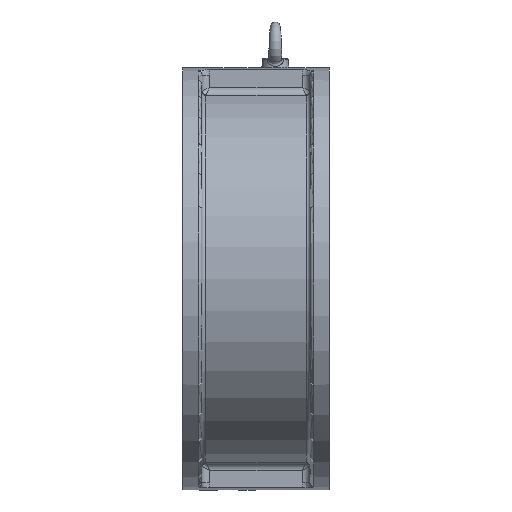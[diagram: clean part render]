
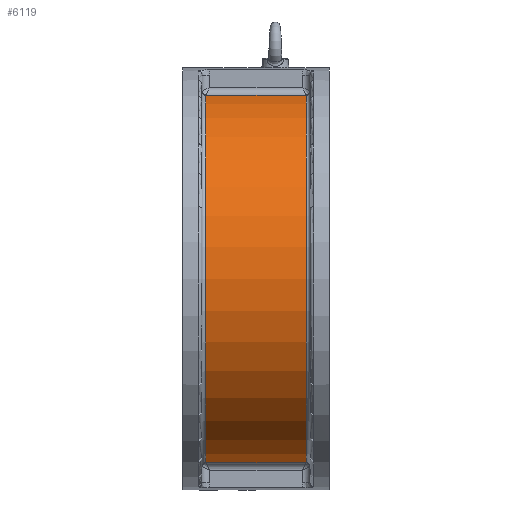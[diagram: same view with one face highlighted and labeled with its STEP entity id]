
A CAD part, left-side view. The second image highlights one B-rep face of the part: STEP entity #6119.
In plain terms, the highlighted cylindrical face has radius 145.5 mm (diameter 291 mm), a partial arc.
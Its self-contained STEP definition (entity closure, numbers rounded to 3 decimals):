
#174 = CARTESIAN_POINT ( 'NONE',  ( 3111.809, 1533.391, 142.809 ) ) ;
#192 = CARTESIAN_POINT ( 'NONE',  ( 3111.809, 1429.213, 142.809 ) ) ;
#277 = LINE ( 'NONE', #640, #8344 ) ;
#640 = CARTESIAN_POINT ( 'NONE',  ( 3111.809, 1533.391, -142.809 ) ) ;
#824 = ORIENTED_EDGE ( 'NONE', *, *, #9362, .T. ) ;
#1058 = CARTESIAN_POINT ( 'NONE',  ( 3111.436, 1429.157, -142.736 ) ) ;
#1218 = B_SPLINE_CURVE_WITH_KNOTS ( 'NONE', 3,
 ( #5866, #5013, #1058, #9013 ),
 .UNSPECIFIED., .F., .F.,
 ( 4, 4 ),
 ( 0., 0.001 ),
 .UNSPECIFIED. ) ;
#1305 = AXIS2_PLACEMENT_3D ( 'NONE', #7940, #7166, #2355 ) ;
#1540 = VERTEX_POINT ( 'NONE', #5170 ) ;
#2002 = CARTESIAN_POINT ( 'NONE',  ( 3111.247, 1507.157, -142.699 ) ) ;
#2131 = ORIENTED_EDGE ( 'NONE', *, *, #5859, .T. ) ;
#2322 = CARTESIAN_POINT ( 'NONE',  ( 3111.247, 1429.157, 142.699 ) ) ;
#2355 = DIRECTION ( 'NONE',  ( -1., 0., 0. ) ) ;
#2445 = VERTEX_POINT ( 'NONE', #2968 ) ;
#2459 = DIRECTION ( 'NONE',  ( -1., 0., 0. ) ) ;
#2552 = CARTESIAN_POINT ( 'NONE',  ( 3111.809, 1507.102, -142.809 ) ) ;
#2737 = CARTESIAN_POINT ( 'NONE',  ( 3111.436, 1507.157, 142.736 ) ) ;
#2904 = VERTEX_POINT ( 'NONE', #2002 ) ;
#2968 = CARTESIAN_POINT ( 'NONE',  ( 3111.809, 1507.102, 142.809 ) ) ;
#3271 = CARTESIAN_POINT ( 'NONE',  ( 3111.624, 1507.139, -142.773 ) ) ;
#3402 = CARTESIAN_POINT ( 'NONE',  ( 3111.436, 1507.157, -142.736 ) ) ;
#3418 = EDGE_CURVE ( 'NONE', #2445, #1540, #10149, .T. ) ;
#3444 = CARTESIAN_POINT ( 'NONE',  ( 3111.809, 1507.102, -142.809 ) ) ;
#3544 = EDGE_CURVE ( 'NONE', #7251, #5193, #277, .T. ) ;
#3901 = VERTEX_POINT ( 'NONE', #8760 ) ;
#4058 = VERTEX_POINT ( 'NONE', #192 ) ;
#4314 = CARTESIAN_POINT ( 'NONE',  ( 3111.624, 1507.139, 142.773 ) ) ;
#4545 = CARTESIAN_POINT ( 'NONE',  ( 3111.247, 1429.157, 142.699 ) ) ;
#4623 = AXIS2_PLACEMENT_3D ( 'NONE', #5683, #7314, #2459 ) ;
#4774 = CARTESIAN_POINT ( 'NONE',  ( 3111.809, 1429.213, -142.809 ) ) ;
#4878 = CIRCLE ( 'NONE', #9863, 145.5 ) ;
#4984 = ORIENTED_EDGE ( 'NONE', *, *, #9527, .F. ) ;
#5013 = CARTESIAN_POINT ( 'NONE',  ( 3111.624, 1429.176, -142.773 ) ) ;
#5046 = CARTESIAN_POINT ( 'NONE',  ( 3111.809, 1507.102, 142.809 ) ) ;
#5170 = CARTESIAN_POINT ( 'NONE',  ( 3111.247, 1507.157, 142.699 ) ) ;
#5193 = VERTEX_POINT ( 'NONE', #4774 ) ;
#5476 = CARTESIAN_POINT ( 'NONE',  ( 3111.624, 1429.176, 142.773 ) ) ;
#5683 = CARTESIAN_POINT ( 'NONE',  ( 3139.661, 1533.391, 0. ) ) ;
#5859 = EDGE_CURVE ( 'NONE', #3901, #7447, #4878, .T. ) ;
#5866 = CARTESIAN_POINT ( 'NONE',  ( 3111.809, 1429.213, -142.809 ) ) ;
#5985 = EDGE_CURVE ( 'NONE', #7447, #4058, #10048, .T. ) ;
#6119 = ADVANCED_FACE ( 'NONE', ( #8289 ), #10124, .T. ) ;
#6211 = DIRECTION ( 'NONE',  ( 0., 1., 0. ) ) ;
#6415 = CARTESIAN_POINT ( 'NONE',  ( 3111.247, 1507.157, -142.699 ) ) ;
#6698 = EDGE_CURVE ( 'NONE', #4058, #2445, #9268, .T. ) ;
#6972 = EDGE_LOOP ( 'NONE', ( #9931, #824, #2131, #8611, #7586, #9251, #4984, #9406 ) ) ;
#7061 = DIRECTION ( 'NONE',  ( -1., 0., 0. ) ) ;
#7166 = DIRECTION ( 'NONE',  ( 0., 1., 0. ) ) ;
#7251 = VERTEX_POINT ( 'NONE', #3444 ) ;
#7314 = DIRECTION ( 'NONE',  ( 0., 1., 0. ) ) ;
#7447 = VERTEX_POINT ( 'NONE', #4545 ) ;
#7586 = ORIENTED_EDGE ( 'NONE', *, *, #6698, .T. ) ;
#7940 = CARTESIAN_POINT ( 'NONE',  ( 3139.661, 1507.157, 0. ) ) ;
#7992 = DIRECTION ( 'NONE',  ( 0., -1., 0. ) ) ;
#8289 = FACE_OUTER_BOUND ( 'NONE', #6972, .T. ) ;
#8344 = VECTOR ( 'NONE', #7992, 1000. ) ;
#8371 = CARTESIAN_POINT ( 'NONE',  ( 3111.247, 1507.157, 142.699 ) ) ;
#8590 = CARTESIAN_POINT ( 'NONE',  ( 3111.436, 1429.157, 142.736 ) ) ;
#8611 = ORIENTED_EDGE ( 'NONE', *, *, #5985, .T. ) ;
#8742 = CARTESIAN_POINT ( 'NONE',  ( 3139.661, 1429.157, 0. ) ) ;
#8760 = CARTESIAN_POINT ( 'NONE',  ( 3111.247, 1429.157, -142.699 ) ) ;
#8807 = EDGE_CURVE ( 'NONE', #2904, #7251, #9243, .T. ) ;
#9013 = CARTESIAN_POINT ( 'NONE',  ( 3111.247, 1429.157, -142.699 ) ) ;
#9141 = CIRCLE ( 'NONE', #1305, 145.5 ) ;
#9151 = DIRECTION ( 'NONE',  ( 0., 1., 0. ) ) ;
#9243 = B_SPLINE_CURVE_WITH_KNOTS ( 'NONE', 3,
 ( #6415, #3402, #3271, #2552 ),
 .UNSPECIFIED., .F., .F.,
 ( 4, 4 ),
 ( 0., 0.001 ),
 .UNSPECIFIED. ) ;
#9251 = ORIENTED_EDGE ( 'NONE', *, *, #3418, .T. ) ;
#9268 = LINE ( 'NONE', #174, #9514 ) ;
#9362 = EDGE_CURVE ( 'NONE', #5193, #3901, #1218, .T. ) ;
#9406 = ORIENTED_EDGE ( 'NONE', *, *, #8807, .T. ) ;
#9514 = VECTOR ( 'NONE', #9151, 1000. ) ;
#9527 = EDGE_CURVE ( 'NONE', #2904, #1540, #9141, .T. ) ;
#9863 = AXIS2_PLACEMENT_3D ( 'NONE', #8742, #6211, #7061 ) ;
#9931 = ORIENTED_EDGE ( 'NONE', *, *, #3544, .T. ) ;
#10048 = B_SPLINE_CURVE_WITH_KNOTS ( 'NONE', 3,
 ( #2322, #8590, #5476, #10313 ),
 .UNSPECIFIED., .F., .F.,
 ( 4, 4 ),
 ( 0., 0.001 ),
 .UNSPECIFIED. ) ;
#10124 = CYLINDRICAL_SURFACE ( 'NONE', #4623, 145.5 ) ;
#10149 = B_SPLINE_CURVE_WITH_KNOTS ( 'NONE', 3,
 ( #5046, #4314, #2737, #8371 ),
 .UNSPECIFIED., .F., .F.,
 ( 4, 4 ),
 ( 0., 0.001 ),
 .UNSPECIFIED. ) ;
#10313 = CARTESIAN_POINT ( 'NONE',  ( 3111.809, 1429.213, 142.809 ) ) ;
